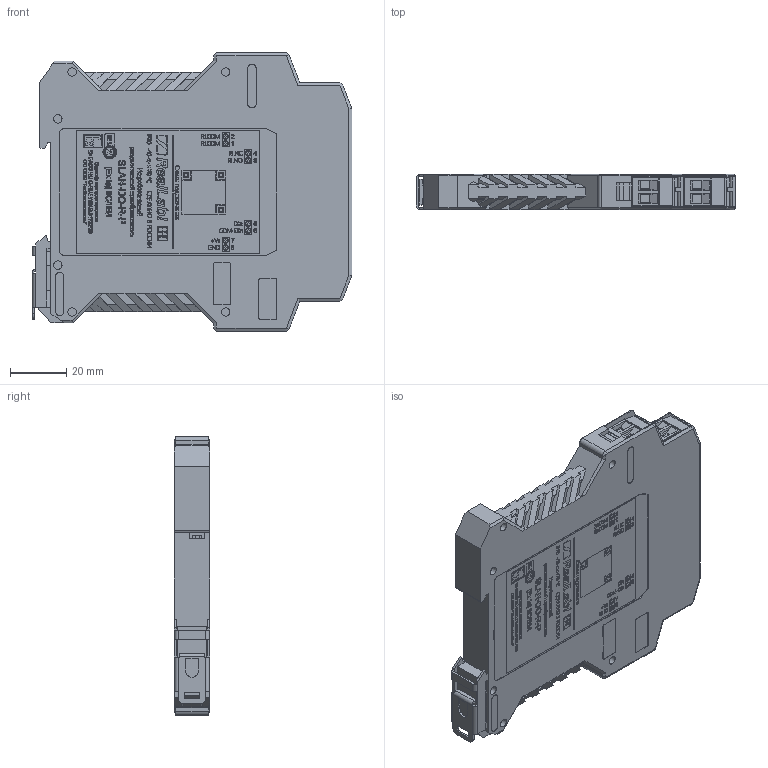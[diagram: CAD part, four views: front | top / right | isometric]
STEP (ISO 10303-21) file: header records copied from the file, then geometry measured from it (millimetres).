
FILE_DESCRIPTION(('STEP AP214'), '1');
FILE_NAME('SLAN-DI-O', '', ('UNSPECIFIED'), ('UNSPECIFIED'), 'C3D Converter', 'C3D Toolkit', '');
FILE_SCHEMA(('AUTOMOTIVE_DESIGN { 1 0 10303 214 3 1 1}'));
Length unit declared in the file: millimetre
Products named in the file (1): НПКГ.426433.009
Bounding box: 113.6 x 12.6 x 99 mm (x, y, z)
Volume: 55936 mm3; surface area: 68626.5 mm2
Topology: 1 solids, 35 shells, 8036 faces, 22097 edges, 14645 vertices
Faces by surface type: plane 4425, extrusion 3279, cylinder 312, cone 20
Full cylindrical faces by diameter (mm): 1.4 x8, 1.8 x2, 1.95 x8, 3 x16, 3.426 x1, 3.783 x8, 4 x8
Entity records: 333259 total; most frequent: CARTESIAN_POINT 76973, ORIENTED_EDGE 44092, DIRECTION 28911, EDGE_CURVE 22046, VECTOR 17947, LINE 14668, VERTEX_POINT 14645, B_SPLINE_CURVE_WITH_KNOTS 9853
